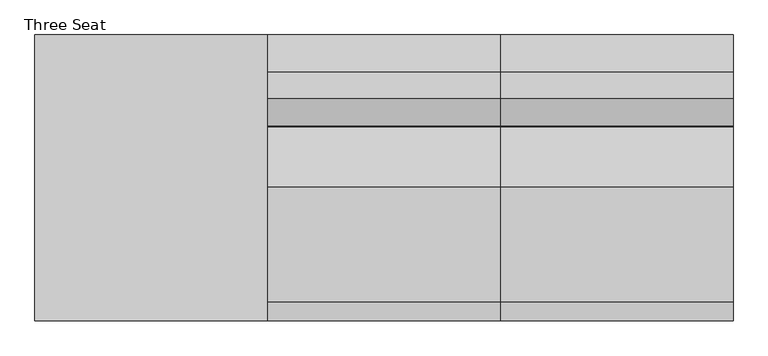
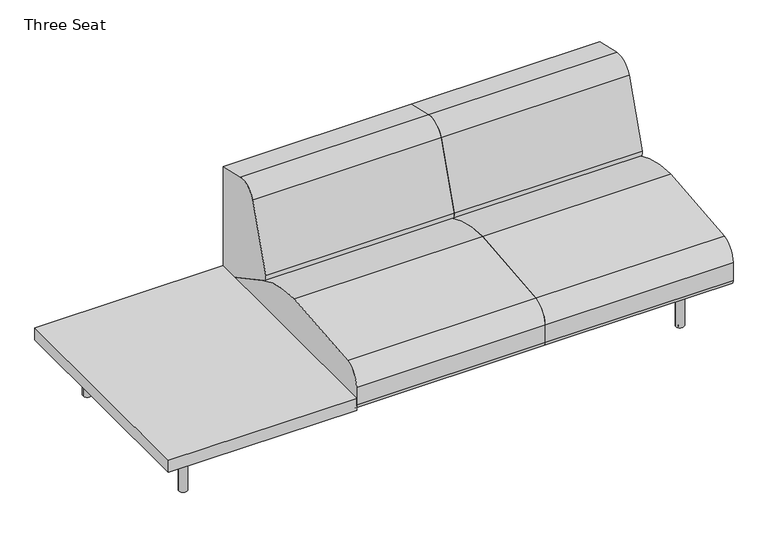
"""IFC4 building model written with IfcOpenShell, lengths in millimetres: furniture geometry, Coalesse_AM_Seating_LoungeChair_Sistema_LegBase_ThreeSeat : Three Seat."""

from ifc_helpers import new_model, si_unit, point, frame, frame_2d, origin, origin_with_axes, place, context, project, spatial, polyline, circle_curve, trimmed, segment, composite_curve, outline, extrude, source, transform, mapped, element, save


def three_seat_1a70b45b(model_context):
    return source(origin(), model_context, "Body", "SweptSolid", [
        extrude(outline(polyline([(374.4965227, 459.4795619), (374.4965227, -461.2704381), (-374.8034773, -461.2704381), (-374.8034773, 459.4795619), (374.4965227, 459.4795619)])), frame((0.0, 0.0, 204.47), z_axis=(0.0, 0.0, 1.0), x_axis=(1.0, 0.0, 0.0)), (0.0, 0.0, 1.0), 51.0294654),
        extrude(outline(composite_curve([segment(polyline([(459.4795619, 673.6041325), (459.4795619, 228.1929806)]), True, "CONTINUOUS"), segment(trimmed(circle_curve(frame_2d((191.495971, 228.1929806)), 267.983591), [point((459.4795619, 228.1929806))], [point((458.9860775, 211.937276))], False, "CARTESIAN"), True, "CONTINUOUS"), segment(polyline([(458.9860775, 211.937276), (177.4990556, 364.1028799)]), True, "CONTINUOUS"), segment(trimmed(circle_curve(frame_2d((189.5778307, 386.4470781)), 25.4), [point((177.4990556, 364.1028799))], [point((164.9600055, 392.7018911))], False, "CARTESIAN"), True, "CONTINUOUS"), segment(trimmed(circle_curve(frame_2d((1918.112812, -52.7331923)), 1808.8552115), [point((164.9600055, 392.7018911))], [point((254.1018253, 656.5090883))], False, "CARTESIAN"), True, "CONTINUOUS"), segment(trimmed(circle_curve(frame_2d((324.2001043, 626.6314831)), 76.2), [point((254.1018253, 656.5090883))], [point((341.3413746, 700.8784821))], False, "CARTESIAN"), True, "CONTINUOUS"), segment(polyline([(341.3413746, 700.8784821), (459.4795619, 673.6041325)]), True, "CONTINUOUS")], self_intersect=False)), frame((374.4965227, 0.0, 0.0), z_axis=(1.0, 0.0, 0.0), x_axis=(0.0, 1.0, 0.0)), (0.0, 0.0, 1.0), 749.3),
        extrude(outline(composite_curve([segment(trimmed(circle_curve(frame_2d((-438.9184381, 226.822)), 22.352), [point((-438.9184381, 204.47))], [point((-461.2704381, 226.822))], False, "CARTESIAN"), True, "CONTINUOUS"), segment(polyline([(-461.2704381, 226.822), (-461.2704381, 301.4421993)]), True, "CONTINUOUS"), segment(trimmed(circle_curve(frame_2d((-385.0704381, 301.4421993)), 76.2), [point((-461.2704381, 301.4421993))], [point((-398.9277015, 376.3716077))], False, "CARTESIAN"), True, "CONTINUOUS"), segment(trimmed(circle_curve(frame_2d((2.2103559, -1792.6740646)), 2205.8265729), [point((-398.9277015, 376.3716077))], [point((-31.1968175, 412.8995185))], False, "CARTESIAN"), True, "CONTINUOUS"), segment(trimmed(circle_curve(frame_2d((-24.5128424, -28.3829182)), 441.333054), [point((-31.1968175, 412.8995185))], [point((184.5757008, 360.2774035))], False, "CARTESIAN"), True, "CONTINUOUS"), segment(polyline([(184.5757008, 360.2774035), (458.9860775, 211.937276)]), True, "CONTINUOUS"), segment(trimmed(circle_curve(frame_2d((442.3266309, 226.7871991)), 22.3171991), [point((458.9860775, 211.937276))], [point((442.3266309, 204.47))], False, "CARTESIAN"), True, "CONTINUOUS"), segment(polyline([(442.3266309, 204.47), (-438.9184381, 204.47)]), True, "CONTINUOUS")], self_intersect=False)), frame((374.4965227, 0.0, 0.0), z_axis=(1.0, 0.0, 0.0), x_axis=(0.0, 1.0, 0.0)), (0.0, 0.0, 1.0), 749.3),
        extrude(outline(composite_curve([segment(polyline([(459.4795619, 673.6041325), (459.4795619, 228.1929806)]), True, "CONTINUOUS"), segment(trimmed(circle_curve(frame_2d((191.495971, 228.1929806)), 267.983591), [point((459.4795619, 228.1929806))], [point((458.9860775, 211.937276))], False, "CARTESIAN"), True, "CONTINUOUS"), segment(polyline([(458.9860775, 211.937276), (177.4990556, 364.1028799)]), True, "CONTINUOUS"), segment(trimmed(circle_curve(frame_2d((189.5778307, 386.4470781)), 25.4), [point((177.4990556, 364.1028799))], [point((164.9600055, 392.7018911))], False, "CARTESIAN"), True, "CONTINUOUS"), segment(trimmed(circle_curve(frame_2d((1918.112812, -52.7331923)), 1808.8552115), [point((164.9600055, 392.7018911))], [point((254.1018253, 656.5090883))], False, "CARTESIAN"), True, "CONTINUOUS"), segment(trimmed(circle_curve(frame_2d((324.2001043, 626.6314831)), 76.2), [point((254.1018253, 656.5090883))], [point((341.3413746, 700.8784821))], False, "CARTESIAN"), True, "CONTINUOUS"), segment(polyline([(341.3413746, 700.8784821), (459.4795619, 673.6041325)]), True, "CONTINUOUS")], self_intersect=False)), frame((1123.7965227, 0.0, 0.0), z_axis=(1.0, 0.0, 0.0), x_axis=(0.0, 1.0, 0.0)), (0.0, 0.0, 1.0), 749.3),
        extrude(outline(composite_curve([segment(trimmed(circle_curve(frame_2d((-438.9184381, 226.822)), 22.352), [point((-438.9184381, 204.47))], [point((-461.2704381, 226.822))], False, "CARTESIAN"), True, "CONTINUOUS"), segment(polyline([(-461.2704381, 226.822), (-461.2704381, 301.4421993)]), True, "CONTINUOUS"), segment(trimmed(circle_curve(frame_2d((-385.0704381, 301.4421993)), 76.2), [point((-461.2704381, 301.4421993))], [point((-398.9277015, 376.3716077))], False, "CARTESIAN"), True, "CONTINUOUS"), segment(trimmed(circle_curve(frame_2d((2.2103559, -1792.6740646)), 2205.8265729), [point((-398.9277015, 376.3716077))], [point((-31.1968175, 412.8995185))], False, "CARTESIAN"), True, "CONTINUOUS"), segment(trimmed(circle_curve(frame_2d((-24.5128424, -28.3829182)), 441.333054), [point((-31.1968175, 412.8995185))], [point((184.5757008, 360.2774035))], False, "CARTESIAN"), True, "CONTINUOUS"), segment(polyline([(184.5757008, 360.2774035), (458.9860775, 211.937276)]), True, "CONTINUOUS"), segment(trimmed(circle_curve(frame_2d((442.3266309, 226.7871991)), 22.3171991), [point((458.9860775, 211.937276))], [point((442.3266309, 204.47))], False, "CARTESIAN"), True, "CONTINUOUS"), segment(polyline([(442.3266309, 204.47), (-438.9184381, 204.47)]), True, "CONTINUOUS")], self_intersect=False)), frame((1123.7965227, 0.0, 0.0), z_axis=(1.0, 0.0, 0.0), x_axis=(0.0, 1.0, 0.0)), (0.0, 0.0, 1.0), 749.3),
        extrude(outline(composite_curve([segment(trimmed(circle_curve(frame_2d((1738.4765227, 335.9943389)), 6.096), [point((1744.5725227, 335.9943389))], [point((1732.3805227, 335.9943389))], False, "CARTESIAN"), True, "CONTINUOUS"), segment(trimmed(circle_curve(frame_2d((1738.4765227, 335.9943389)), 6.096), [point((1732.3805227, 335.9943389))], [point((1744.5725227, 335.9943389))], False, "CARTESIAN"), True, "CONTINUOUS")], self_intersect=False)), origin_with_axes(), (0.0, 0.0, 1.0), 4.3662291),
        extrude(outline(composite_curve([segment(trimmed(circle_curve(frame_2d((1738.4765227, -327.2630889)), 6.096), [point((1744.5725227, -327.2630889))], [point((1732.3805227, -327.2630889))], False, "CARTESIAN"), True, "CONTINUOUS"), segment(trimmed(circle_curve(frame_2d((1738.4765227, -327.2630889)), 6.096), [point((1732.3805227, -327.2630889))], [point((1744.5725227, -327.2630889))], False, "CARTESIAN"), True, "CONTINUOUS")], self_intersect=False)), origin_with_axes(), (0.0, 0.0, 1.0), 4.3662291),
        extrude(outline(composite_curve([segment(polyline([(157.0399209, 1751.056375), (201.7356243, 1751.056375)]), True, "CONTINUOUS"), segment(trimmed(circle_curve(frame_2d((201.7356243, 1748.008375)), 3.048), [point((201.7356243, 1751.056375))], [point((204.7836243, 1748.008375))], False, "CARTESIAN"), True, "CONTINUOUS"), segment(polyline([(204.7836243, 1748.008375), (204.7836243, 1728.666199)]), True, "CONTINUOUS"), segment(trimmed(circle_curve(frame_2d((201.7356243, 1728.666199)), 3.048), [point((204.7836243, 1728.666199))], [point((201.7356243, 1725.618199))], False, "CARTESIAN"), True, "CONTINUOUS"), segment(polyline([(201.7356243, 1725.618199), (157.1249936, 1725.618199)]), True, "CONTINUOUS"), segment(trimmed(circle_curve(frame_2d((157.1249936, 1728.7512718)), 3.1330728), [point((157.1249936, 1725.618199))], [point((153.9919209, 1728.7512718))], False, "CARTESIAN"), True, "CONTINUOUS"), segment(polyline([(153.9919209, 1728.7512718), (153.9919209, 1748.008375)]), True, "CONTINUOUS"), segment(trimmed(circle_curve(frame_2d((157.0399209, 1748.008375)), 3.048), [point((153.9919209, 1748.008375))], [point((157.0399209, 1751.056375))], False, "CARTESIAN"), True, "CONTINUOUS")], self_intersect=False)), frame((0.0, 222.3519802, 0.0), z_axis=(0.0, 1.0, 0.0), x_axis=(0.0, 0.0, 1.0)), (0.0, 0.0, 1.0), 92.6273161),
        extrude(outline(composite_curve([segment(polyline([(157.0399209, 1751.056375), (201.7356243, 1751.056375)]), True, "CONTINUOUS"), segment(trimmed(circle_curve(frame_2d((201.7356243, 1748.008375)), 3.048), [point((201.7356243, 1751.056375))], [point((204.7836243, 1748.008375))], False, "CARTESIAN"), True, "CONTINUOUS"), segment(polyline([(204.7836243, 1748.008375), (204.7836243, 1728.666199)]), True, "CONTINUOUS"), segment(trimmed(circle_curve(frame_2d((201.7356243, 1728.666199)), 3.048), [point((204.7836243, 1728.666199))], [point((201.7356243, 1725.618199))], False, "CARTESIAN"), True, "CONTINUOUS"), segment(polyline([(201.7356243, 1725.618199), (157.1249936, 1725.618199)]), True, "CONTINUOUS"), segment(trimmed(circle_curve(frame_2d((157.1249936, 1728.7512718)), 3.1330728), [point((157.1249936, 1725.618199))], [point((153.9919209, 1728.7512718))], False, "CARTESIAN"), True, "CONTINUOUS"), segment(polyline([(153.9919209, 1728.7512718), (153.9919209, 1748.008375)]), True, "CONTINUOUS"), segment(trimmed(circle_curve(frame_2d((157.0399209, 1748.008375)), 3.048), [point((153.9919209, 1748.008375))], [point((157.0399209, 1751.056375))], False, "CARTESIAN"), True, "CONTINUOUS")], self_intersect=False)), frame((0.0, -314.9792963, 0.0), z_axis=(0.0, 1.0, 0.0), x_axis=(0.0, 0.0, 1.0)), (0.0, 0.0, 1.0), 92.6273161),
        extrude(outline(composite_curve([segment(trimmed(circle_curve(frame_2d((176.3356606, 1715.8259944)), 3.048), [point((179.3836606, 1715.8259944))], [point((176.3356606, 1712.7779944))], False, "CARTESIAN"), True, "CONTINUOUS"), segment(polyline([(176.3356606, 1712.7779944), (157.0399209, 1712.7779944)]), True, "CONTINUOUS"), segment(trimmed(circle_curve(frame_2d((157.0399209, 1715.8259944)), 3.048), [point((157.0399209, 1712.7779944))], [point((153.9919209, 1715.8259944))], False, "CARTESIAN"), True, "CONTINUOUS"), segment(polyline([(153.9919209, 1715.8259944), (153.9919209, 1760.5135501)]), True, "CONTINUOUS"), segment(trimmed(circle_curve(frame_2d((157.056462, 1760.5135501)), 3.0645412), [point((153.9919209, 1760.5135501))], [point((157.056462, 1763.5780913))], False, "CARTESIAN"), True, "CONTINUOUS"), segment(polyline([(157.056462, 1763.5780913), (176.3356606, 1763.5780913)]), True, "CONTINUOUS"), segment(trimmed(circle_curve(frame_2d((176.3356606, 1760.5300913)), 3.048), [point((176.3356606, 1763.5780913))], [point((179.3836606, 1760.5300913))], False, "CARTESIAN"), True, "CONTINUOUS"), segment(polyline([(179.3836606, 1760.5300913), (179.3836606, 1715.8259944)]), True, "CONTINUOUS")], self_intersect=False)), frame((0.0, -222.3519802, 0.0), z_axis=(0.0, 1.0, 0.0), x_axis=(0.0, 0.0, 1.0)), (0.0, 0.0, 1.0), 444.7039604),
        extrude(outline(composite_curve([segment(trimmed(circle_curve(frame_2d((1738.4765227, 332.3095741)), 16.51), [point((1754.9865227, 332.3095741))], [point((1721.9665227, 332.3095741))], False, "CARTESIAN"), True, "CONTINUOUS"), segment(trimmed(circle_curve(frame_2d((1738.4765227, 332.3095741)), 16.51), [point((1721.9665227, 332.3095741))], [point((1754.9865227, 332.3095741))], False, "CARTESIAN"), True, "CONTINUOUS")], self_intersect=False)), frame((0.0, 0.0, 4.3662291), z_axis=(0.0, 0.0, 1.0), x_axis=(1.0, 0.0, 0.0)), (0.0, 0.0, 1.0), 200.1037709),
        extrude(outline(composite_curve([segment(trimmed(circle_curve(frame_2d((1738.0796477, -327.5470741)), 16.51), [point((1754.5896477, -327.5470741))], [point((1721.5696477, -327.5470741))], False, "CARTESIAN"), True, "CONTINUOUS"), segment(trimmed(circle_curve(frame_2d((1738.0796477, -327.5470741)), 16.51), [point((1721.5696477, -327.5470741))], [point((1754.5896477, -327.5470741))], False, "CARTESIAN"), True, "CONTINUOUS")], self_intersect=False)), frame((0.0, 0.0, 4.3662291), z_axis=(0.0, 0.0, 1.0), x_axis=(1.0, 0.0, 0.0)), (0.0, 0.0, 1.0), 200.1037709),
        extrude(outline(composite_curve([segment(trimmed(circle_curve(frame_2d((-240.1834773, 335.9943389)), 6.096), [point((-246.2794773, 335.9943389))], [point((-234.0874773, 335.9943389))], False, "CARTESIAN"), True, "CONTINUOUS"), segment(trimmed(circle_curve(frame_2d((-240.1834773, 335.9943389)), 6.096), [point((-234.0874773, 335.9943389))], [point((-246.2794773, 335.9943389))], False, "CARTESIAN"), True, "CONTINUOUS")], self_intersect=False)), origin_with_axes(), (0.0, 0.0, 1.0), 4.3662291),
        extrude(outline(composite_curve([segment(trimmed(circle_curve(frame_2d((-240.1834773, -327.2630889)), 6.096), [point((-246.2794773, -327.2630889))], [point((-234.0874773, -327.2630889))], False, "CARTESIAN"), True, "CONTINUOUS"), segment(trimmed(circle_curve(frame_2d((-240.1834773, -327.2630889)), 6.096), [point((-234.0874773, -327.2630889))], [point((-246.2794773, -327.2630889))], False, "CARTESIAN"), True, "CONTINUOUS")], self_intersect=False)), origin_with_axes(), (0.0, 0.0, 1.0), 4.3662291),
        extrude(outline(composite_curve([segment(trimmed(circle_curve(frame_2d((157.0399209, -249.7153296)), 3.048), [point((157.0399209, -252.7633296))], [point((153.9919209, -249.7153296))], False, "CARTESIAN"), True, "CONTINUOUS"), segment(polyline([(153.9919209, -249.7153296), (153.9919209, -230.4582264)]), True, "CONTINUOUS"), segment(trimmed(circle_curve(frame_2d((157.1249936, -230.4582264)), 3.1330728), [point((153.9919209, -230.4582264))], [point((157.1249936, -227.3251537))], False, "CARTESIAN"), True, "CONTINUOUS"), segment(polyline([(157.1249936, -227.3251537), (201.7356243, -227.3251537)]), True, "CONTINUOUS"), segment(trimmed(circle_curve(frame_2d((201.7356243, -230.3731537)), 3.048), [point((201.7356243, -227.3251537))], [point((204.7836243, -230.3731537))], False, "CARTESIAN"), True, "CONTINUOUS"), segment(polyline([(204.7836243, -230.3731537), (204.7836243, -249.7153296)]), True, "CONTINUOUS"), segment(trimmed(circle_curve(frame_2d((201.7356243, -249.7153296)), 3.048), [point((204.7836243, -249.7153296))], [point((201.7356243, -252.7633296))], False, "CARTESIAN"), True, "CONTINUOUS"), segment(polyline([(201.7356243, -252.7633296), (157.0399209, -252.7633296)]), True, "CONTINUOUS")], self_intersect=False)), frame((0.0, 222.3519802, 0.0), z_axis=(0.0, 1.0, 0.0), x_axis=(0.0, 0.0, 1.0)), (0.0, 0.0, 1.0), 92.6273161),
        extrude(outline(composite_curve([segment(trimmed(circle_curve(frame_2d((157.0399209, -249.7153296)), 3.048), [point((157.0399209, -252.7633296))], [point((153.9919209, -249.7153296))], False, "CARTESIAN"), True, "CONTINUOUS"), segment(polyline([(153.9919209, -249.7153296), (153.9919209, -230.4582264)]), True, "CONTINUOUS"), segment(trimmed(circle_curve(frame_2d((157.1249936, -230.4582264)), 3.1330728), [point((153.9919209, -230.4582264))], [point((157.1249936, -227.3251537))], False, "CARTESIAN"), True, "CONTINUOUS"), segment(polyline([(157.1249936, -227.3251537), (201.7356243, -227.3251537)]), True, "CONTINUOUS"), segment(trimmed(circle_curve(frame_2d((201.7356243, -230.3731537)), 3.048), [point((201.7356243, -227.3251537))], [point((204.7836243, -230.3731537))], False, "CARTESIAN"), True, "CONTINUOUS"), segment(polyline([(204.7836243, -230.3731537), (204.7836243, -249.7153296)]), True, "CONTINUOUS"), segment(trimmed(circle_curve(frame_2d((201.7356243, -249.7153296)), 3.048), [point((204.7836243, -249.7153296))], [point((201.7356243, -252.7633296))], False, "CARTESIAN"), True, "CONTINUOUS"), segment(polyline([(201.7356243, -252.7633296), (157.0399209, -252.7633296)]), True, "CONTINUOUS")], self_intersect=False)), frame((0.0, -314.9792963, 0.0), z_axis=(0.0, 1.0, 0.0), x_axis=(0.0, 0.0, 1.0)), (0.0, 0.0, 1.0), 92.6273161),
        extrude(outline(composite_curve([segment(polyline([(179.3836606, -217.532949), (179.3836606, -262.2370459)]), True, "CONTINUOUS"), segment(trimmed(circle_curve(frame_2d((176.3356606, -262.2370459)), 3.048), [point((179.3836606, -262.2370459))], [point((176.3356606, -265.2850459))], False, "CARTESIAN"), True, "CONTINUOUS"), segment(polyline([(176.3356606, -265.2850459), (157.056462, -265.2850459)]), True, "CONTINUOUS"), segment(trimmed(circle_curve(frame_2d((157.056462, -262.2205047)), 3.0645412), [point((157.056462, -265.2850459))], [point((153.9919209, -262.2205047))], False, "CARTESIAN"), True, "CONTINUOUS"), segment(polyline([(153.9919209, -262.2205047), (153.9919209, -217.532949)]), True, "CONTINUOUS"), segment(trimmed(circle_curve(frame_2d((157.0399209, -217.532949)), 3.048), [point((153.9919209, -217.532949))], [point((157.0399209, -214.484949))], False, "CARTESIAN"), True, "CONTINUOUS"), segment(polyline([(157.0399209, -214.484949), (176.3356606, -214.484949)]), True, "CONTINUOUS"), segment(trimmed(circle_curve(frame_2d((176.3356606, -217.532949)), 3.048), [point((176.3356606, -214.484949))], [point((179.3836606, -217.532949))], False, "CARTESIAN"), True, "CONTINUOUS")], self_intersect=False)), frame((0.0, -222.3519802, 0.0), z_axis=(0.0, 1.0, 0.0), x_axis=(0.0, 0.0, 1.0)), (0.0, 0.0, 1.0), 444.7039604),
        extrude(outline(composite_curve([segment(trimmed(circle_curve(frame_2d((-240.1834773, 332.3095741)), 16.51), [point((-256.6934773, 332.3095741))], [point((-223.6734773, 332.3095741))], False, "CARTESIAN"), True, "CONTINUOUS"), segment(trimmed(circle_curve(frame_2d((-240.1834773, 332.3095741)), 16.51), [point((-223.6734773, 332.3095741))], [point((-256.6934773, 332.3095741))], False, "CARTESIAN"), True, "CONTINUOUS")], self_intersect=False)), frame((0.0, 0.0, 4.3662291), z_axis=(0.0, 0.0, 1.0), x_axis=(1.0, 0.0, 0.0)), (0.0, 0.0, 1.0), 200.1037709),
        extrude(outline(composite_curve([segment(trimmed(circle_curve(frame_2d((-239.7866023, -327.5470741)), 16.51), [point((-256.2966023, -327.5470741))], [point((-223.2766023, -327.5470741))], False, "CARTESIAN"), True, "CONTINUOUS"), segment(trimmed(circle_curve(frame_2d((-239.7866023, -327.5470741)), 16.51), [point((-223.2766023, -327.5470741))], [point((-256.2966023, -327.5470741))], False, "CARTESIAN"), True, "CONTINUOUS")], self_intersect=False)), frame((0.0, 0.0, 4.3662291), z_axis=(0.0, 0.0, 1.0), x_axis=(1.0, 0.0, 0.0)), (0.0, 0.0, 1.0), 200.1037709),
    ])


if __name__ == "__main__":
    model = new_model("IFC4")
    model_context = context("Model", 3, world=origin())
    ifc_project = project(units=[si_unit("LENGTHUNIT", "METRE", prefix="MILLI")], contexts=[model_context])
    site = spatial("IfcSite", under=ifc_project)
    building = spatial("IfcBuilding", under=site)
    placement = place(None, origin())
    three_seat_shape = three_seat_1a70b45b(model_context)
    element("IfcFurniture", 1, ObjectType="Coalesse_AM_Seating_LoungeChair_Sistema_LegBase_ThreeSeat : Three Seat", at=placement, inside=building, context=model_context, shape_type="MappedRepresentation", body=[
        mapped(three_seat_shape, transform((0.0, 0.0, 0.0), x_axis=(1.0, 0.0, 0.0), y_axis=(0.0, 1.0, 0.0), z_axis=(0.0, 0.0, 1.0))),
    ])
    save(model, "model.ifc")
